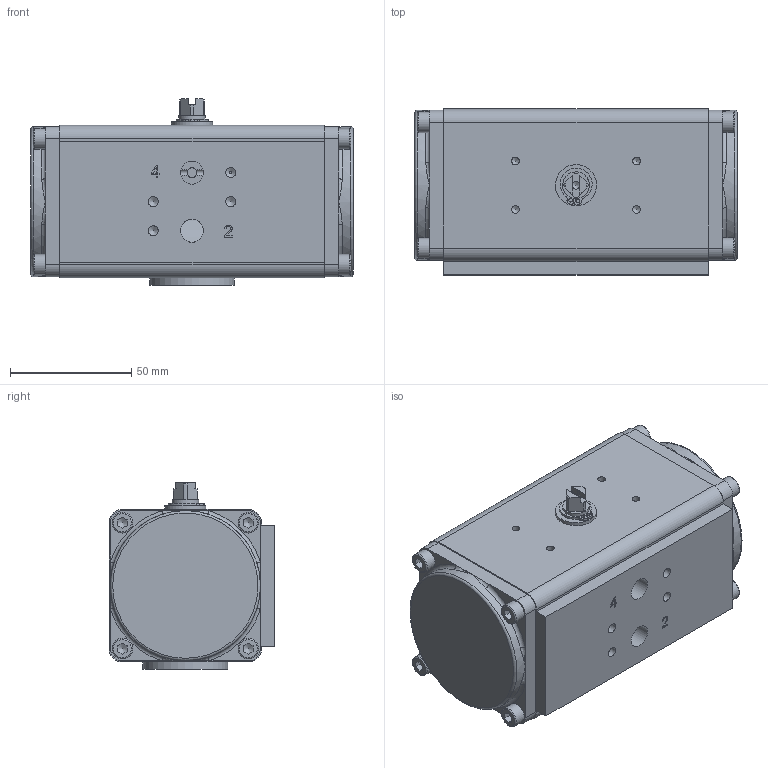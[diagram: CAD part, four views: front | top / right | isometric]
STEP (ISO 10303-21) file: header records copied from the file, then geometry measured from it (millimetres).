
FILE_DESCRIPTION(/* description */ (''),/* implementation_level */ '2;1');
FILE_NAME(/* name */ 'C:\Users\war\Desktop\SAD _005-180°.stp',/* time_stamp */ '2022-08-23T07:23:43+02:00',/* author */ ('war'),/* organization */ (''),/* preprocessor_version */ 'ST-DEVELOPER v18.1',/* originating_system */ 'Autodesk Inventor 2021',/* authorisation */ '');
FILE_SCHEMA (('AUTOMOTIVE_DESIGN { 1 0 10303 214 3 1 1 }'));
Length unit declared in the file: millimetre
Products named in the file (1): ENG-056314_Shrinkwrap_1
Bounding box: 133.1 x 68.5 x 77 mm (x, y, z)
Volume: 333990.4 mm3; surface area: 72122.7 mm2
Topology: 1 solids, 2 shells, 382 faces, 996 edges, 632 vertices
Faces by surface type: plane 167, cylinder 119, torus 47, bspline 25, cone 24
Full cylindrical faces by diameter (mm): 1.5 x2, 2.5 x2, 3.242 x5, 4 x1, 4.134 x4, 4.917 x4, 8.5 x8, 9.525 x2, 10.4 x1, 10.5 x1, 11 x3, 11.1 x1, 15 x1, 17 x1, 20 x2, 35 x1, 46 x1, 56 x2, 62 x2
Entity records: 14195 total; most frequent: CARTESIAN_POINT 4573, ORIENTED_EDGE 1920, DIRECTION 1893, EDGE_CURVE 960, AXIS2_PLACEMENT_3D 715, VERTEX_POINT 632, LINE 463, VECTOR 463
